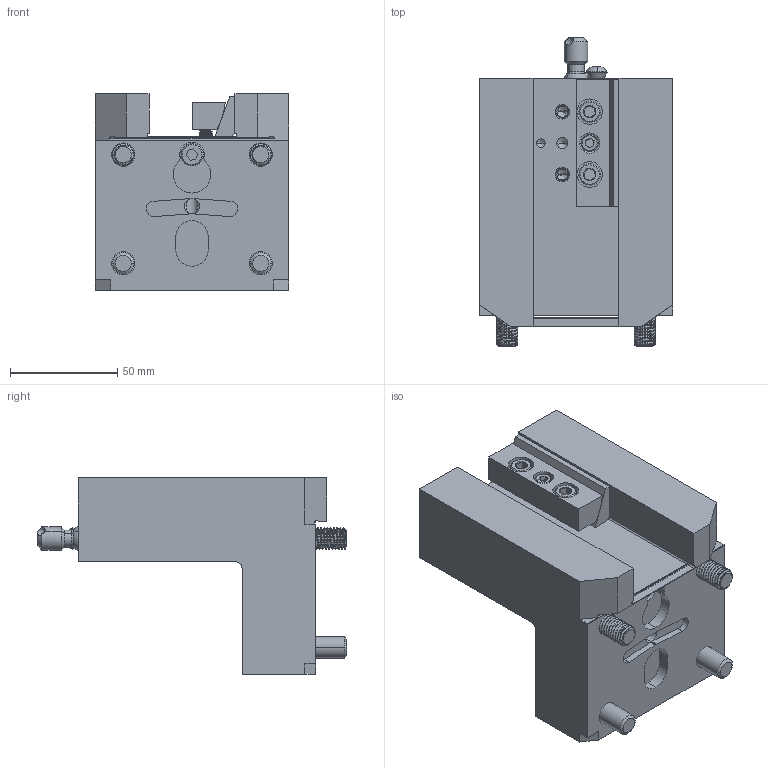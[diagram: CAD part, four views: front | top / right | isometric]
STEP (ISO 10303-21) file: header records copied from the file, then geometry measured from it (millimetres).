
FILE_DESCRIPTION (( 'STEP AP203' ), '1' );
FILE_NAME ('04-0803.STEP', '2022-07-12T16:44:40', ( '' ), ( '' ), 'SwSTEP 2.0', 'SolidWorks 2021', '' );
FILE_SCHEMA (( 'CONFIG_CONTROL_DESIGN' ));
Length unit declared in the file: inch
Products named in the file (15): 57-0026; 40-0011_40-0011; 22-8749; 40-1626_40-1626; 20-3797; 40-0118_40-0118; 58-1627; 40-1645; 10000015933; 40-0003_40-0003; 04-0803; 30-5846; 20-5314; 20-3796; 10000016468
Assembly tree (18 placements, depth 3):
  04-0803
    30-5846
      20-5314
      40-0003_40-0003
      22-8749
      57-0026
      20-3796
      20-3797
      40-1626_40-1626  x2
      40-1645
      58-1627  x2
      40-0011_40-0011  x2
      40-0118_40-0118  x2
      10000015933
      10000016468
Bounding box: 90 x 143.97 x 91.44 mm (x, y, z)
Volume: 418276.4 mm3; surface area: 95344.4 mm2
Topology: 17 solids, 17 shells, 871 faces, 2256 edges, 1435 vertices
Faces by surface type: cylinder 519, plane 170, cone 159, bspline 12, torus 11
Entity records: 27644 total; most frequent: CARTESIAN_POINT 12515, ORIENTED_EDGE 3064, DIRECTION 2593, EDGE_CURVE 1532, VERTEX_POINT 983, AXIS2_PLACEMENT_3D 982, EDGE_LOOP 657, VECTOR 629
